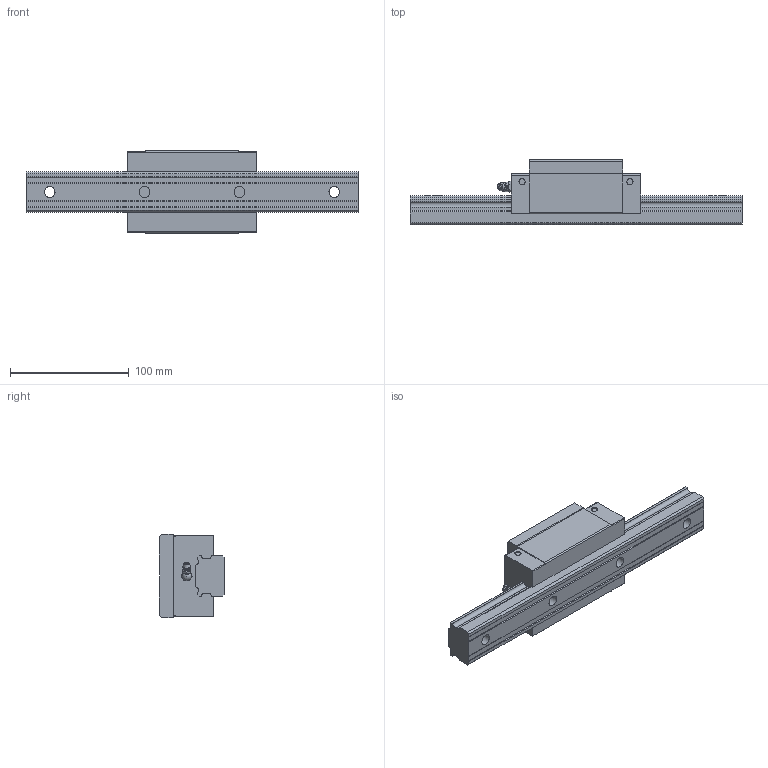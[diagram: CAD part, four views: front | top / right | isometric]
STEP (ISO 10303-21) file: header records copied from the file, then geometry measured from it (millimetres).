
FILE_DESCRIPTION(/* description */ ('STEP AP203'),/* implementation_level */ '2;1');
FILE_NAME(/* name */ 'SVR35RH1SS-280L_G20_0_B-M6F_85-25_0_0_01',/* time_stamp */ '2024-05-17T07:28:29+02:00',/* author */ ('License CC BY-ND 4.0'),/* organization */ ('CADENAS'),/* preprocessor_version */ 'ST-DEVELOPER v19.3',/* originating_system */ 'PARTsolutions',/* authorisation */ ' ');
FILE_SCHEMA (('CONFIG_CONTROL_DESIGN'));
Length unit declared in the file: millimetre
Products named in the file (4): SVR35RH1SS-280L_G20_0_B-M6F_85-25_0_0_01; SVR 35RH28020 R Track; SVR 35RH1SSB-M6F1 Slide; B-M6F_grease_nipple_joint1_SVR
Assembly tree (3 placements, depth 2):
  SVR35RH1SS-280L_G20_0_B-M6F_85-25_0_0_01
    SVR 35RH28020 R Track
    SVR 35RH1SSB-M6F1 Slide
    B-M6F_grease_nipple_joint1_SVR
Bounding box: 280 x 55 x 70 mm (x, y, z)
Volume: 470984.7 mm3; surface area: 73268.2 mm2
Topology: 3 solids, 3 shells, 182 faces, 484 edges, 317 vertices
Faces by surface type: plane 100, cylinder 56, cone 21, sphere 3, torus 2
Full cylindrical faces by diameter (mm): 4.917 x2, 5.2 x4, 6 x1, 6.647 x4, 8 x1, 9 x4, 14 x4
Entity records: 5481 total; most frequent: CARTESIAN_POINT 1017, DIRECTION 912, ORIENTED_EDGE 852, EDGE_CURVE 426, AXIS2_PLACEMENT_3D 324, VERTEX_POINT 305, LINE 264, VECTOR 264
